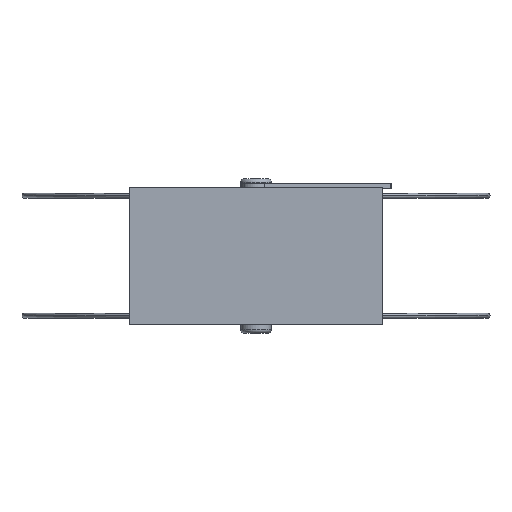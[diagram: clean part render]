
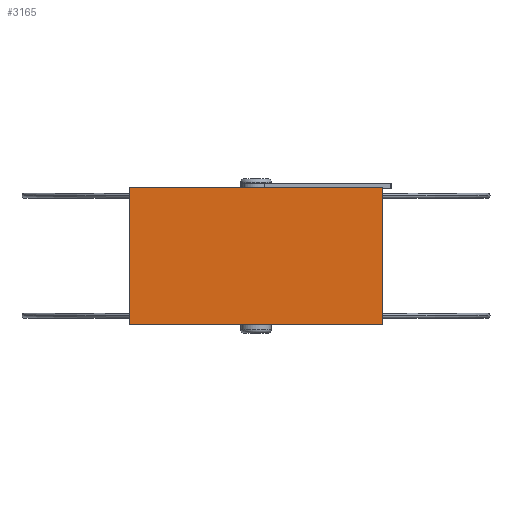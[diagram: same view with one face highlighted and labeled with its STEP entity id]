
A CAD part, front view. The second image highlights one B-rep face of the part: STEP entity #3165.
In plain terms, the highlighted planar face has unit normal (0, -1, 0).
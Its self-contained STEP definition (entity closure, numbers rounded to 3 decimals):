
#30 = EDGE_LOOP ( 'NONE', ( #4779, #2171, #3933, #860 ) ) ;
#399 = EDGE_CURVE ( 'NONE', #4023, #5629, #5354, .T. ) ;
#410 = CARTESIAN_POINT ( 'NONE',  ( 11.307, 0.017, 0. ) ) ;
#543 = DIRECTION ( 'NONE',  ( 0., 1., 0. ) ) ;
#649 = EDGE_CURVE ( 'NONE', #5324, #4860, #5102, .T. ) ;
#658 = PLANE ( 'NONE',  #6061 ) ;
#759 = DIRECTION ( 'NONE',  ( 0., 0., -1. ) ) ;
#860 = ORIENTED_EDGE ( 'NONE', *, *, #649, .T. ) ;
#1425 = CARTESIAN_POINT ( 'NONE',  ( 11.307, 0.017, 80. ) ) ;
#1471 = DIRECTION ( 'NONE',  ( 1., 0., 0. ) ) ;
#2171 = ORIENTED_EDGE ( 'NONE', *, *, #399, .F. ) ;
#2266 = CARTESIAN_POINT ( 'NONE',  ( 159.307, 0.017, 0. ) ) ;
#2480 = VECTOR ( 'NONE', #759, 1000. ) ;
#2518 = FACE_OUTER_BOUND ( 'NONE', #30, .T. ) ;
#2582 = DIRECTION ( 'NONE',  ( 1., 0., 0. ) ) ;
#2801 = DIRECTION ( 'NONE',  ( 0., 0., 1. ) ) ;
#2956 = VECTOR ( 'NONE', #2582, 1000. ) ;
#3154 = VECTOR ( 'NONE', #4096, 1000. ) ;
#3165 = ADVANCED_FACE ( 'NONE', ( #2518 ), #658, .F. ) ;
#3344 = CARTESIAN_POINT ( 'NONE',  ( 11.307, 0.017, 80. ) ) ;
#3451 = CARTESIAN_POINT ( 'NONE',  ( 159.307, 0.017, 80. ) ) ;
#3644 = LINE ( 'NONE', #410, #2956 ) ;
#3805 = CARTESIAN_POINT ( 'NONE',  ( 159.307, 0.017, 80. ) ) ;
#3933 = ORIENTED_EDGE ( 'NONE', *, *, #5334, .F. ) ;
#4023 = VERTEX_POINT ( 'NONE', #3805 ) ;
#4096 = DIRECTION ( 'NONE',  ( 0., 0., -1. ) ) ;
#4779 = ORIENTED_EDGE ( 'NONE', *, *, #6091, .T. ) ;
#4860 = VERTEX_POINT ( 'NONE', #6930 ) ;
#5102 = LINE ( 'NONE', #6214, #3154 ) ;
#5324 = VERTEX_POINT ( 'NONE', #1425 ) ;
#5334 = EDGE_CURVE ( 'NONE', #5324, #4023, #5772, .T. ) ;
#5354 = LINE ( 'NONE', #3451, #2480 ) ;
#5629 = VERTEX_POINT ( 'NONE', #2266 ) ;
#5772 = LINE ( 'NONE', #5837, #6781 ) ;
#5837 = CARTESIAN_POINT ( 'NONE',  ( 11.307, 0.017, 80. ) ) ;
#6061 = AXIS2_PLACEMENT_3D ( 'NONE', #3344, #543, #2801 ) ;
#6091 = EDGE_CURVE ( 'NONE', #4860, #5629, #3644, .T. ) ;
#6214 = CARTESIAN_POINT ( 'NONE',  ( 11.307, 0.017, 80. ) ) ;
#6781 = VECTOR ( 'NONE', #1471, 1000. ) ;
#6930 = CARTESIAN_POINT ( 'NONE',  ( 11.307, 0.017, 0. ) ) ;
